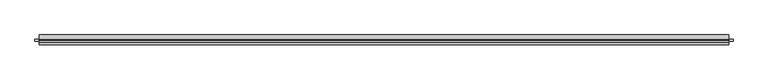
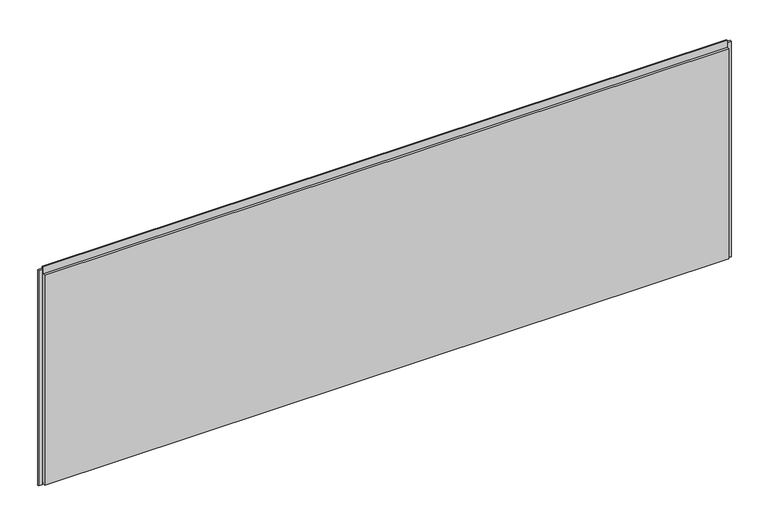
"""IFC4 building model written with IfcOpenShell, lengths in millimetres: plate geometry, Trimo_Qbiss Screen_Normal Panel-HORIZONTAL : HR - B."""

from ifc_helpers import new_model, si_unit, frame, origin, place, context, project, spatial, polyline, outline, extrude, source, transform, mapped, element, save


def plate_abbbe2c7(model_context):
    return source(origin(), model_context, "Body", "SweptSolid", [
        extrude(outline(polyline([(-1764.8307146, 76.5978162), (-1764.8307146, 67.8978162), (-1783.8307146, 67.8978162), (-1783.8307146, 76.5978162), (-1764.8307146, 76.5978162)])), frame((0.0, 0.0, -1.0), z_axis=(0.0, 0.0, 1.0), x_axis=(1.0, 0.0, 0.0)), (0.0, 0.0, 1.0), 1172.5),
        extrude(outline(polyline([(1764.8307146, 67.8978162), (1764.8307146, 76.5978162), (1783.8307146, 76.5978162), (1783.8307146, 67.8978162), (1764.8307146, 67.8978162)])), frame((0.0, 0.0, -1.0), z_axis=(0.0, 0.0, 1.0), x_axis=(1.0, 0.0, 0.0)), (0.0, 0.0, 1.0), 1172.5),
        extrude(outline(polyline([(1761.8307146, 76.0), (1761.8307146, 71.0), (-1761.8307146, 71.0), (-1761.8307146, 76.0), (1761.8307146, 76.0)])), frame((0.0, 0.0, 1150.5), z_axis=(0.0, 0.0, 1.0), x_axis=(1.0, 0.0, 0.0)), (0.0, 0.0, 1.0), 21.0),
        extrude(outline(polyline([(71.0, 1149.5), (100.0, 1149.5), (100.0, 0.0), (72.0, 0.0), (72.0, 15.5), (62.0, 15.5), (62.0, 7.0), (50.0, 7.0), (50.0, 1149.5), (63.0, 1149.5), (63.0, 1187.0), (71.0, 1187.0), (71.0, 1149.5)])), frame((-1761.8307146, 0.0, 0.0), z_axis=(1.0, 0.0, 0.0), x_axis=(0.0, 1.0, 0.0)), (0.0, 0.0, 1.0), 3523.6614291),
    ])


if __name__ == "__main__":
    model = new_model("IFC4")
    model_context = context("Model", 3, world=origin())
    ifc_project = project(units=[si_unit("LENGTHUNIT", "METRE", prefix="MILLI")], contexts=[model_context])
    site = spatial("IfcSite", under=ifc_project)
    building = spatial("IfcBuilding", under=site)
    placement = place(None, origin())
    plate_shape = plate_abbbe2c7(model_context)
    element("IfcPlate", 1, ObjectType="Trimo_Qbiss Screen_Normal Panel-HORIZONTAL : HR - B", at=placement, inside=building, context=model_context, shape_type="MappedRepresentation", body=[
        mapped(plate_shape, transform((0.0, 0.0, 0.0), x_axis=(1.0, 0.0, 0.0), y_axis=(0.0, 1.0, 0.0), z_axis=(0.0, 0.0, 1.0))),
    ])
    save(model, "model.ifc")
